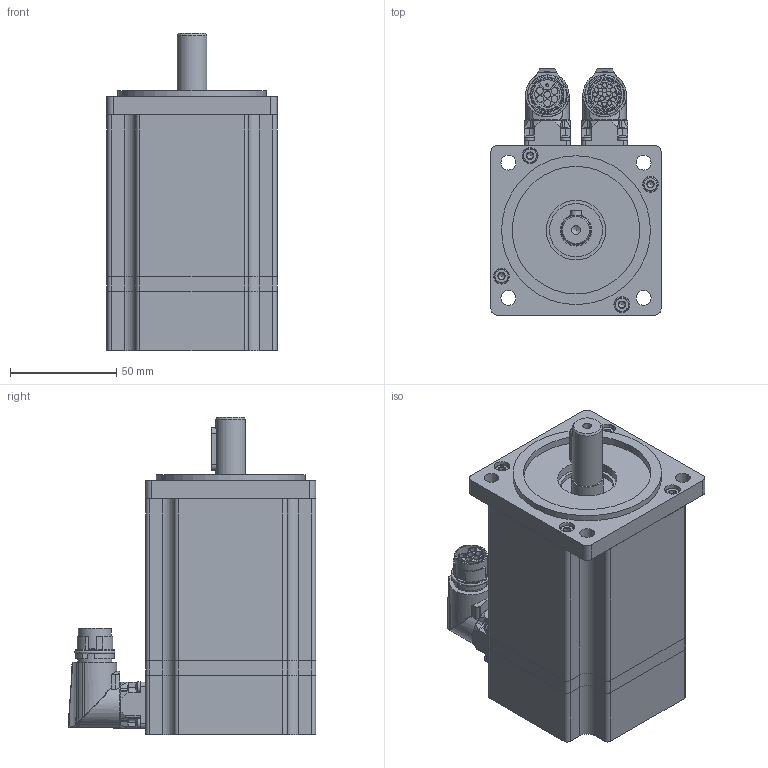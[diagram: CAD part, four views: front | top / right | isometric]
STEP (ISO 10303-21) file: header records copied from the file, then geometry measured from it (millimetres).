
FILE_DESCRIPTION(/* description */ (''),/* implementation_level */ '2;1');
FILE_NAME(/* name */ 'C:\Users\Public\Documents\Autodesk\Inventor LT 2014\Workspace\3D Sangalli Servomotori\DSM7\DSM7 - STEP\DSM7_3x_STEP\DSM7_32_x098.stp',/* time_stamp */ '2020-10-16T12:24:45+02:00',/* author */ ('marcor'),/* organization */ (''),/* preprocessor_version */ 'ST-DEVELOPER v15.2',/* originating_system */ 'Autodesk Inventor LT ',/* authorisation */ '');
FILE_SCHEMA (('AUTOMOTIVE_DESIGN { 1 0 10303 214 3 1 1 }'));
Products named in the file (1): DSM7_32_x098
Bounding box: 80 x 116.35 x 149.5 mm (x, y, z)
Volume: 720972.6 mm3; surface area: 110696.9 mm2
Topology: 16 solids, 36 shells, 1527 faces, 3971 edges, 2588 vertices
Faces by surface type: plane 673, cylinder 534, cone 164, torus 96, bspline 52, sphere 8
Full cylindrical faces by diameter (mm): 1.3 x1, 2.013 x4, 2.1 x15, 2.224 x8, 2.5 x8, 2.7 x8, 3.2 x6, 3.242 x12, 4 x12, 4.134 x1, 4.5 x12, 4.8 x2, 5 x2, 7 x20, 7.5 x8, 11.7 x1, 13.4 x1, 14 x1, 14.2 x2, 14.95 x1, 15.2 x2, 15.54 x2, 16 x2, 16.8 x2, 17 x2, 19.7 x2, 25 x1, 28 x1, 35 x1, 60 x1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
Entity records: 50169 total; most frequent: CARTESIAN_POINT 13714, ORIENTED_EDGE 7166, DIRECTION 7056, EDGE_CURVE 3583, AXIS2_PLACEMENT_3D 2765, VERTEX_POINT 2481, EDGE_LOOP 1942, LINE 1526
